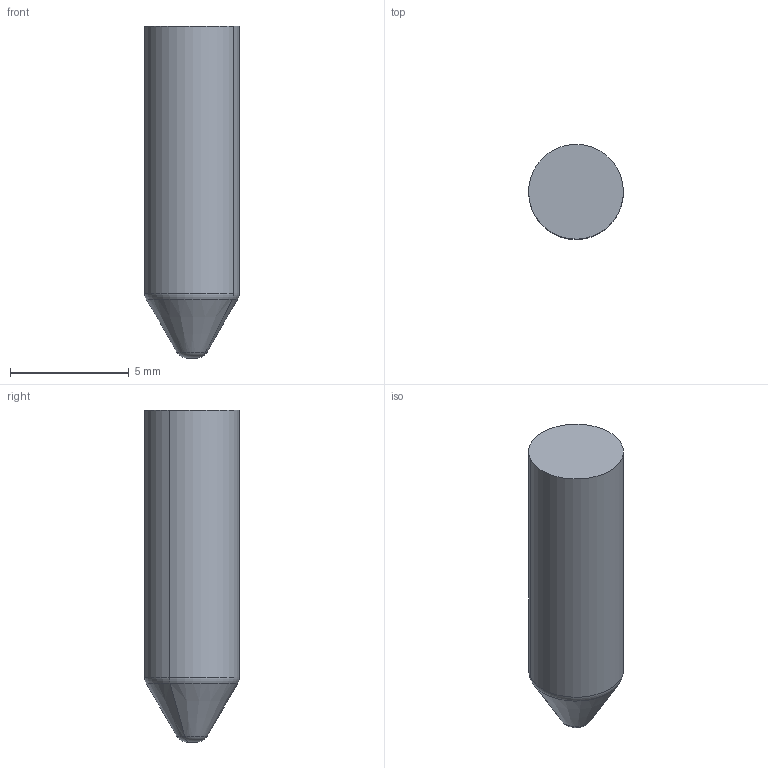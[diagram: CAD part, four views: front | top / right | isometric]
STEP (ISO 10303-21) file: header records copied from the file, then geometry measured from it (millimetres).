
FILE_DESCRIPTION(('CATIA V5 STEP Exchange'),'2;1');
FILE_NAME('E:\WAT\Sprezarka\122_00_00_Tlocznik2\Tlocznik2_stp\121_01_09_Kolek.stp','2022-12-06T12:23:08+00:00',('none'),('none'),'CATIA Version 5 Release 20 SP 4 (IN-10)','CATIA V5 STEP AP214','none');
FILE_SCHEMA(('AUTOMOTIVE_DESIGN { 1 0 10303 214 1 1 1 1 }'));
Length unit declared in the file: millimetre
Products named in the file (1): 121_01_09_Kolek
Bounding box: 4 x 4 x 14 mm (x, y, z)
Volume: 157.5 mm3; surface area: 179.9 mm2
Topology: 1 solids, 1 shells, 10 faces, 18 edges, 10 vertices
Faces by surface type: torus 4, plane 2, cylinder 2, cone 2
Entity records: 261 total; most frequent: CARTESIAN_POINT 37, ORIENTED_EDGE 36, DIRECTION 34, AXIS2_PLACEMENT_3D 23, EDGE_CURVE 18, CIRCLE 14, ADVANCED_FACE 10, EDGE_LOOP 10
